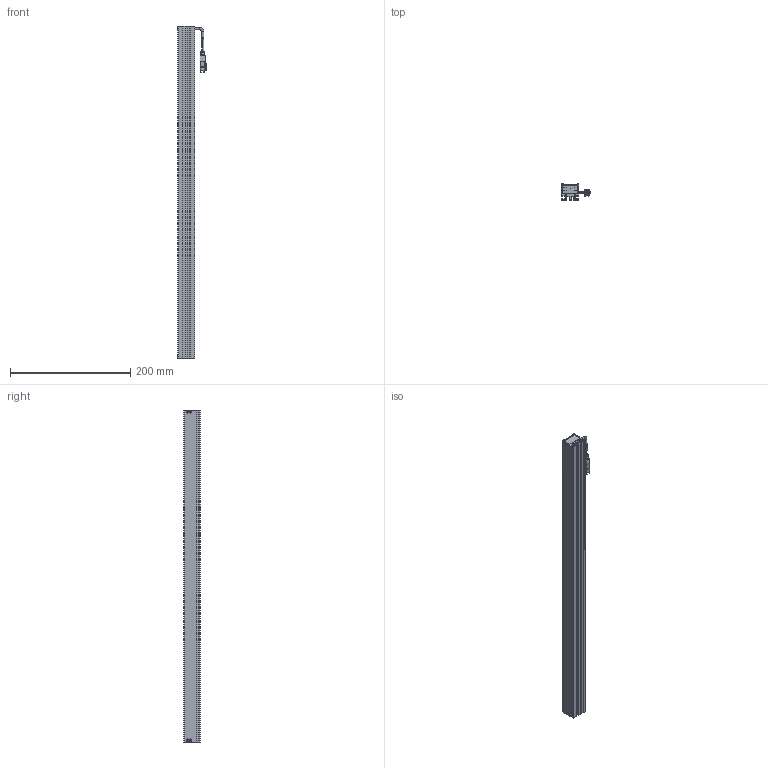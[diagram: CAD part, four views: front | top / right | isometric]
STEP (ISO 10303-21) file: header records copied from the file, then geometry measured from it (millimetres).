
FILE_DESCRIPTION (( 'STEP AP203' ), '1' );
FILE_NAME ('CST-2BS55228-¼òÒ×3DÍ¼.STEP', '2021-06-15T07:01:05', ( '' ), ( '' ), 'SwSTEP 2.0', 'SolidWorks 2018', '' );
FILE_SCHEMA (( 'CONFIG_CONTROL_DESIGN' ));
Length unit declared in the file: millimetre
Products named in the file (1): CST-2BS55228-潠眢3D芞
Bounding box: 46.62 x 27 x 552 mm (x, y, z)
Surface area: 191930.7 mm2 (no closed solid volume)
Topology: 0 solids, 18 shells, 556 faces, 1474 edges, 937 vertices
Faces by surface type: plane 317, cylinder 154, cone 51, bspline 28, torus 6
Entity records: 17710 total; most frequent: CARTESIAN_POINT 4008, ORIENTED_EDGE 2861, DIRECTION 2769, EDGE_CURVE 1454, VECTOR 1013, LINE 1013, VERTEX_POINT 937, AXIS2_PLACEMENT_3D 878
